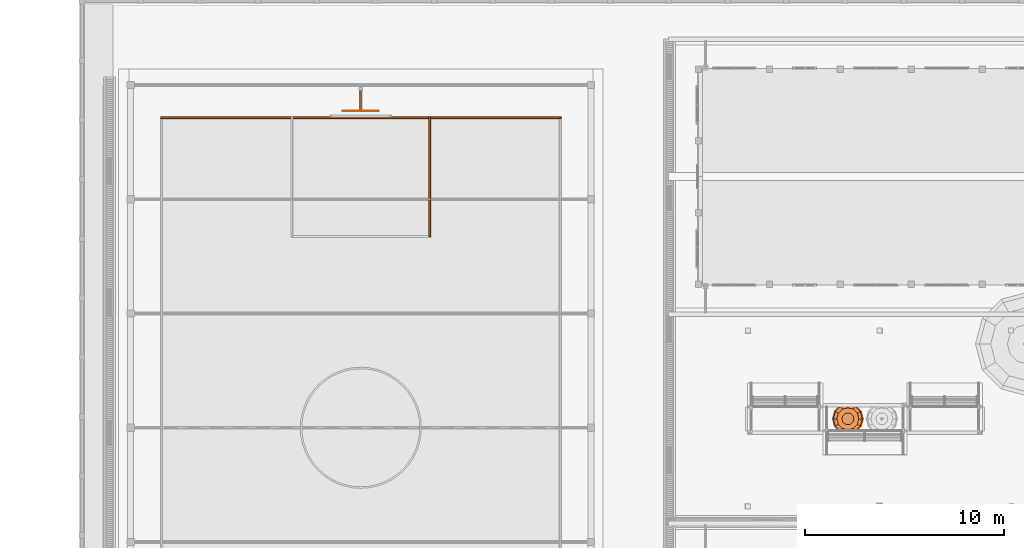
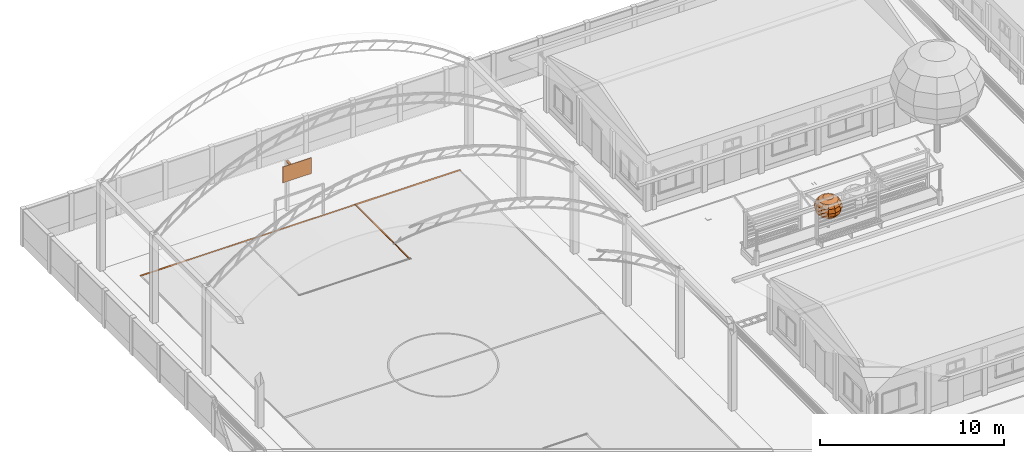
# One storey, part 161 of 166: 5 proxies.
"""IFC2X3 building model written with IfcOpenShell, lengths in metres."""

from ifc_helpers import new_model, si_unit, origin, origin_with_axes, place, context, subcontext, project, spatial, faceted_brep, element, save


model = new_model("IFC2X3")

# Units and contexts
model_context = context("Model", 3, precision=1e-05, world=origin_with_axes())
body_context = subcontext(model_context, "Body", "Model", "MODEL_VIEW")
ifc_project = project(units=[si_unit("LENGTHUNIT", "METRE"), si_unit("AREAUNIT", "SQUARE_METRE"), si_unit("VOLUMEUNIT", "CUBIC_METRE"), si_unit("PLANEANGLEUNIT", "RADIAN")], contexts=[model_context])

# Site, building, storey
site_placement = place(None, origin_with_axes())
site = spatial("IfcSite", under=ifc_project, at=site_placement, Name="Predio Los Mangos - Morales, San Martín", CompositionType="ELEMENT")
building_placement = place(site_placement, origin())
building = spatial("IfcBuilding", under=site, at=building_placement, Name="Hogar de Refugio Temporal", CompositionType="ELEMENT")
storey_placement = place(building_placement, origin())
storey = spatial("IfcBuildingStorey", under=building, at=storey_placement, Name="NIVEL 1 (NPT +0.00)", CompositionType="ELEMENT", Elevation=0.0)

# Proxies
proxy_1_placement = place(storey_placement, origin())
element("IfcBuildingElementProxy", 1, at=proxy_1_placement, inside=storey, Name="linea_cancha", ObjectType="Losa deportiva y vía", context=body_context, shape_type="Brep", body=[
    faceted_brep([(5.0, 125.32, 0.125), (5.0, 125.4, 0.125), (25.1, 125.4, 0.125), (25.1, 125.32, 0.125), (5.0, 125.32, 0.127), (25.1, 125.32, 0.127), (25.1, 125.4, 0.127), (5.0, 125.4, 0.127)], [[[0, 1, 2, 3]], [[4, 5, 6, 7]], [[0, 3, 5, 4]], [[3, 2, 6, 5]], [[2, 1, 7, 6]], [[1, 0, 4, 7]]]),
])
proxy_2_placement = place(storey_placement, origin())
element("IfcBuildingElementProxy", 2, at=proxy_2_placement, inside=storey, Name="linea_area", ObjectType="Losa deportiva y vía", context=body_context, shape_type="Brep", body=[
    faceted_brep([(18.47, 119.4, 0.127), (18.47, 125.4, 0.127), (18.55, 125.4, 0.127), (18.55, 119.4, 0.127), (18.47, 119.4, 0.129), (18.55, 119.4, 0.129), (18.55, 125.4, 0.129), (18.47, 125.4, 0.129)], [[[0, 1, 2, 3]], [[4, 5, 6, 7]], [[0, 3, 5, 4]], [[3, 2, 6, 5]], [[2, 1, 7, 6]], [[1, 0, 4, 7]]]),
])
proxy_3_placement = place(storey_placement, origin())
element("IfcBuildingElementProxy", 3, at=proxy_3_placement, inside=storey, Name="tablero", ObjectType="Losa deportiva y vía", context=body_context, shape_type="Brep", body=[
    faceted_brep([(14.15, 125.68, 2.9), (14.15, 125.72, 2.9), (15.95, 125.72, 2.9), (15.95, 125.68, 2.9), (14.15, 125.68, 3.95), (15.95, 125.68, 3.95), (15.95, 125.72, 3.95), (14.15, 125.72, 3.95)], [[[0, 1, 2, 3]], [[4, 5, 6, 7]], [[0, 3, 5, 4]], [[3, 2, 6, 5]], [[2, 1, 7, 6]], [[1, 0, 4, 7]]]),
])
proxy_4_placement = place(storey_placement, origin())
element("IfcBuildingElementProxy", 4, at=proxy_4_placement, inside=storey, Name="brazo", ObjectType="Losa deportiva y vía", context=body_context, shape_type="Brep", body=[
    faceted_brep([(15.0, 125.7, 3.3), (15.0, 126.8, 3.3), (15.1, 126.8, 3.3), (15.1, 125.7, 3.3), (15.0, 125.7, 3.4), (15.1, 125.7, 3.4), (15.1, 126.8, 3.4), (15.0, 126.8, 3.4)], [[[0, 1, 2, 3]], [[4, 5, 6, 7]], [[0, 3, 5, 4]], [[3, 2, 6, 5]], [[2, 1, 7, 6]], [[1, 0, 4, 7]]]),
])
proxy_5_placement = place(storey_placement, origin())
element("IfcBuildingElementProxy", 5, at=proxy_5_placement, inside=storey, Name="arbol_copa", ObjectType="Árbol", context=body_context, shape_type="Brep", body=[
    faceted_brep([(39.495, 110.25, 2.5172), (39.495, 110.25, 2.5172), (39.7542, 110.3996, 2.4666), (39.7943, 110.25, 2.4666), (39.495, 110.25, 2.5172), (39.6446, 110.5092, 2.4666), (39.495, 110.25, 2.5172), (39.495, 110.5493, 2.4666), (39.495, 110.25, 2.5172), (39.3454, 110.5092, 2.4666), (39.495, 110.25, 2.5172), (39.2358, 110.3996, 2.4666), (39.495, 110.25, 2.5172), (39.1957, 110.25, 2.4666), (39.495, 110.25, 2.5172), (39.2358, 110.1004, 2.4666), (39.495, 110.25, 2.5172), (39.3454, 109.9908, 2.4666), (39.495, 110.25, 2.5172), (39.495, 109.9507, 2.4666), (39.495, 110.25, 2.5172), (39.6446, 109.9908, 2.4666), (39.495, 110.25, 2.5172), (39.7542, 110.1004, 2.4666), (39.9739, 110.5265, 2.3225), (40.048, 110.25, 2.3225), (39.7715, 110.7289, 2.3225), (39.495, 110.803, 2.3225), (39.2185, 110.7289, 2.3225), (39.0161, 110.5265, 2.3225), (38.942, 110.25, 2.3225), (39.0161, 109.9735, 2.3225), (39.2185, 109.7711, 2.3225), (39.495, 109.697, 2.3225), (39.7715, 109.7711, 2.3225), (39.9739, 109.9735, 2.3225), (40.1207, 110.6112, 2.1069), (40.2175, 110.25, 2.1069), (39.8562, 110.8757, 2.1069), (39.495, 110.9725, 2.1069), (39.1338, 110.8757, 2.1069), (38.8693, 110.6112, 2.1069), (38.7725, 110.25, 2.1069), (38.8693, 109.8888, 2.1069), (39.1338, 109.6243, 2.1069), (39.495, 109.5275, 2.1069), (39.8562, 109.6243, 2.1069), (40.1207, 109.8888, 2.1069), (40.1722, 110.641, 1.8525), (40.277, 110.25, 1.8525), (39.886, 110.9272, 1.8525), (39.495, 111.032, 1.8525), (39.104, 110.9272, 1.8525), (38.8178, 110.641, 1.8525), (38.713, 110.25, 1.8525), (38.8178, 109.859, 1.8525), (39.104, 109.5728, 1.8525), (39.495, 109.468, 1.8525), (39.886, 109.5728, 1.8525), (40.1722, 109.859, 1.8525), (40.1207, 110.6112, 1.5981), (40.2175, 110.25, 1.5981), (39.8562, 110.8757, 1.5981), (39.495, 110.9725, 1.5981), (39.1338, 110.8757, 1.5981), (38.8693, 110.6112, 1.5981), (38.7725, 110.25, 1.5981), (38.8693, 109.8888, 1.5981), (39.1338, 109.6243, 1.5981), (39.495, 109.5275, 1.5981), (39.8562, 109.6243, 1.5981), (40.1207, 109.8888, 1.5981), (39.9739, 110.5265, 1.3825), (40.048, 110.25, 1.3825), (39.7715, 110.7289, 1.3825), (39.495, 110.803, 1.3825), (39.2185, 110.7289, 1.3825), (39.0161, 110.5265, 1.3825), (38.942, 110.25, 1.3825), (39.0161, 109.9735, 1.3825), (39.2185, 109.7711, 1.3825), (39.495, 109.697, 1.3825), (39.7715, 109.7711, 1.3825), (39.9739, 109.9735, 1.3825), (39.7542, 110.3996, 1.2384), (39.7943, 110.25, 1.2384), (39.6446, 110.5092, 1.2384), (39.495, 110.5493, 1.2384), (39.3454, 110.5092, 1.2384), (39.2358, 110.3996, 1.2384), (39.1957, 110.25, 1.2384), (39.2358, 110.1004, 1.2384), (39.3454, 109.9908, 1.2384), (39.495, 109.9507, 1.2384), (39.6446, 109.9908, 1.2384), (39.7542, 110.1004, 1.2384), (39.495, 110.25, 1.1878), (39.495, 110.25, 1.1878), (39.495, 110.25, 1.1878), (39.495, 110.25, 1.1878), (39.495, 110.25, 1.1878), (39.495, 110.25, 1.1878), (39.495, 110.25, 1.1878), (39.495, 110.25, 1.1878), (39.495, 110.25, 1.1878), (39.495, 110.25, 1.1878), (39.495, 110.25, 1.1878), (39.495, 110.25, 1.1878)], [[[0, 1, 2]], [[0, 2, 3]], [[1, 4, 5]], [[1, 5, 2]], [[4, 6, 7]], [[4, 7, 5]], [[6, 8, 9]], [[6, 9, 7]], [[8, 10, 11]], [[8, 11, 9]], [[10, 12, 13]], [[10, 13, 11]], [[12, 14, 15]], [[12, 15, 13]], [[14, 16, 17]], [[14, 17, 15]], [[16, 18, 19]], [[16, 19, 17]], [[18, 20, 21]], [[18, 21, 19]], [[20, 22, 23]], [[20, 23, 21]], [[22, 0, 3]], [[22, 3, 23]], [[3, 2, 24]], [[3, 24, 25]], [[2, 5, 26]], [[2, 26, 24]], [[5, 7, 27]], [[5, 27, 26]], [[7, 9, 28]], [[7, 28, 27]], [[9, 11, 29]], [[9, 29, 28]], [[11, 13, 30]], [[11, 30, 29]], [[13, 15, 31]], [[13, 31, 30]], [[15, 17, 32]], [[15, 32, 31]], [[17, 19, 33]], [[17, 33, 32]], [[19, 21, 34]], [[19, 34, 33]], [[21, 23, 35]], [[21, 35, 34]], [[23, 3, 25]], [[23, 25, 35]], [[25, 24, 36]], [[25, 36, 37]], [[24, 26, 38]], [[24, 38, 36]], [[26, 27, 39]], [[26, 39, 38]], [[27, 28, 40]], [[27, 40, 39]], [[28, 29, 41]], [[28, 41, 40]], [[29, 30, 42]], [[29, 42, 41]], [[30, 31, 43]], [[30, 43, 42]], [[31, 32, 44]], [[31, 44, 43]], [[32, 33, 45]], [[32, 45, 44]], [[33, 34, 46]], [[33, 46, 45]], [[34, 35, 47]], [[34, 47, 46]], [[35, 25, 37]], [[35, 37, 47]], [[37, 36, 48]], [[37, 48, 49]], [[36, 38, 50]], [[36, 50, 48]], [[38, 39, 51]], [[38, 51, 50]], [[39, 40, 52]], [[39, 52, 51]], [[40, 41, 53]], [[40, 53, 52]], [[41, 42, 54]], [[41, 54, 53]], [[42, 43, 55]], [[42, 55, 54]], [[43, 44, 56]], [[43, 56, 55]], [[44, 45, 57]], [[44, 57, 56]], [[45, 46, 58]], [[45, 58, 57]], [[46, 47, 59]], [[46, 59, 58]], [[47, 37, 49]], [[47, 49, 59]], [[49, 48, 60]], [[49, 60, 61]], [[48, 50, 62]], [[48, 62, 60]], [[50, 51, 63]], [[50, 63, 62]], [[51, 52, 64]], [[51, 64, 63]], [[52, 53, 65]], [[52, 65, 64]], [[53, 54, 66]], [[53, 66, 65]], [[54, 55, 67]], [[54, 67, 66]], [[55, 56, 68]], [[55, 68, 67]], [[56, 57, 69]], [[56, 69, 68]], [[57, 58, 70]], [[57, 70, 69]], [[58, 59, 71]], [[58, 71, 70]], [[59, 49, 61]], [[59, 61, 71]], [[61, 60, 72]], [[61, 72, 73]], [[60, 62, 74]], [[60, 74, 72]], [[62, 63, 75]], [[62, 75, 74]], [[63, 64, 76]], [[63, 76, 75]], [[64, 65, 77]], [[64, 77, 76]], [[65, 66, 78]], [[65, 78, 77]], [[66, 67, 79]], [[66, 79, 78]], [[67, 68, 80]], [[67, 80, 79]], [[68, 69, 81]], [[68, 81, 80]], [[69, 70, 82]], [[69, 82, 81]], [[70, 71, 83]], [[70, 83, 82]], [[71, 61, 73]], [[71, 73, 83]], [[73, 72, 84]], [[73, 84, 85]], [[72, 74, 86]], [[72, 86, 84]], [[74, 75, 87]], [[74, 87, 86]], [[75, 76, 88]], [[75, 88, 87]], [[76, 77, 89]], [[76, 89, 88]], [[77, 78, 90]], [[77, 90, 89]], [[78, 79, 91]], [[78, 91, 90]], [[79, 80, 92]], [[79, 92, 91]], [[80, 81, 93]], [[80, 93, 92]], [[81, 82, 94]], [[81, 94, 93]], [[82, 83, 95]], [[82, 95, 94]], [[83, 73, 85]], [[83, 85, 95]], [[85, 84, 96]], [[85, 96, 97]], [[84, 86, 98]], [[84, 98, 96]], [[86, 87, 99]], [[86, 99, 98]], [[87, 88, 100]], [[87, 100, 99]], [[88, 89, 101]], [[88, 101, 100]], [[89, 90, 102]], [[89, 102, 101]], [[90, 91, 103]], [[90, 103, 102]], [[91, 92, 104]], [[91, 104, 103]], [[92, 93, 105]], [[92, 105, 104]], [[93, 94, 106]], [[93, 106, 105]], [[94, 95, 107]], [[94, 107, 106]], [[95, 85, 97]], [[95, 97, 107]]]),
])

save(model, "model.ifc")
